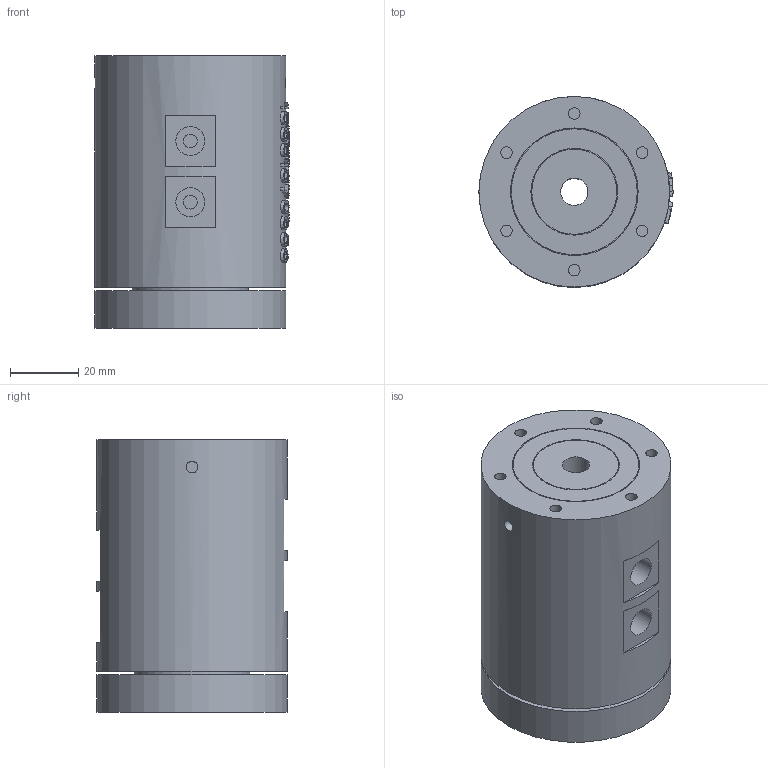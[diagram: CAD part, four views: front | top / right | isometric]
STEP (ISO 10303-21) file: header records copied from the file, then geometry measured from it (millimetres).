
FILE_DESCRIPTION(/* description */ (''),/* implementation_level */ '2;1');
FILE_NAME(/* name */ 'HQD04001.stp',/* time_stamp */ '2024-07-01T11:27:13+08:00',/* author */ (''),/* organization */ (''),/* preprocessor_version */ 'ST-DEVELOPER v16.7',/* originating_system */ 'SIEMENS PLM Software NX 12.0',/* authorisation */ '');
FILE_SCHEMA (('AUTOMOTIVE_DESIGN { 1 0 10303 214 3 1 1 1 }'));
Length unit declared in the file: millimetre
Products named in the file (1): 86130A48DBE8x8in
Bounding box: 57 x 56 x 80 mm (x, y, z)
Volume: 185688.4 mm3; surface area: 28753.8 mm2
Topology: 1 solids, 1 shells, 394 faces, 957 edges, 639 vertices
Faces by surface type: plane 164, extrusion 157, cylinder 46, bspline 27
Full cylindrical faces by diameter (mm): 3.4 x12, 4 x7, 8 x1, 8.5 x8, 25 x1, 25.5 x1, 34 x1, 37 x1, 37.5 x1, 56 x2
Entity records: 17028 total; most frequent: CARTESIAN_POINT 8605, ORIENTED_EDGE 1820, DIRECTION 1249, EDGE_CURVE 910, VERTEX_POINT 634, VECTOR 541, B_SPLINE_CURVE_WITH_KNOTS 540, EDGE_LOOP 512
